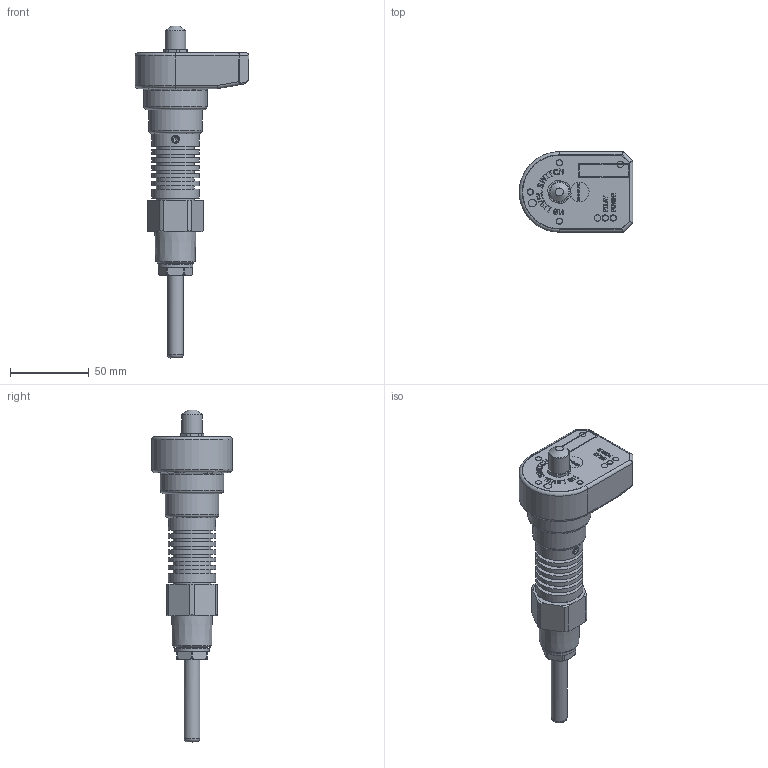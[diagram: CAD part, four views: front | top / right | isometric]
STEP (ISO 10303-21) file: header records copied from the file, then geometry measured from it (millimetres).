
FILE_DESCRIPTION((''),'2;1');
FILE_NAME('R:\Mekanisk design\HBSR-SSR(HV)\5. STEP files\HBSR-SSR.stp','2015-06-19T12:42:57',('kc'),(''),'Autodesk Inventor 2013','Autodesk Inventor 2013','');
FILE_SCHEMA(('AUTOMOTIVE_DESIGN { 1 0 10303 214 1 1 1 1 }'));
Length unit declared in the file: millimetre
Products named in the file (1): HBSR-SSR
Bounding box: 72 x 51 x 210.2 mm (x, y, z)
Volume: 221616.1 mm3; surface area: 67289.8 mm2
Topology: 25 solids, 25 shells, 1229 faces, 3147 edges, 2054 vertices
Faces by surface type: plane 712, cylinder 219, bspline 165, cone 72, torus 54, sphere 7
Full cylindrical faces by diameter (mm): 0.5 x2, 1.003 x1, 1.8 x2, 2.459 x2, 2.729 x1, 2.8 x1, 2.83 x1, 3 x1, 3.2 x1, 3.6 x5, 3.8 x1, 4 x18, 4.2 x1, 4.7 x1, 5 x2, 6 x1, 6.1 x1, 6.3 x1, 8 x1, 8.4 x1, 8.5 x2, 8.6 x1, 9.7 x1, 10 x2, 10.1 x1, 10.5 x3, 10.55 x2, 11.5 x1, 11.8 x2, 12 x4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
Entity records: 43247 total; most frequent: CARTESIAN_POINT 14164, ORIENTED_EDGE 5788, DIRECTION 5164, EDGE_CURVE 2894, VERTEX_POINT 1962, AXIS2_PLACEMENT_3D 1724, VECTOR 1716, LINE 1716
